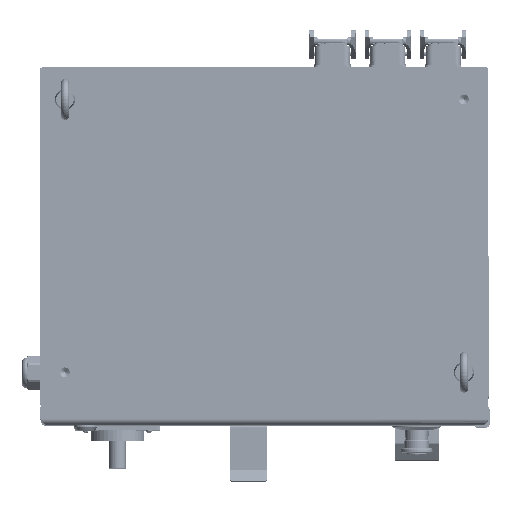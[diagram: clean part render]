
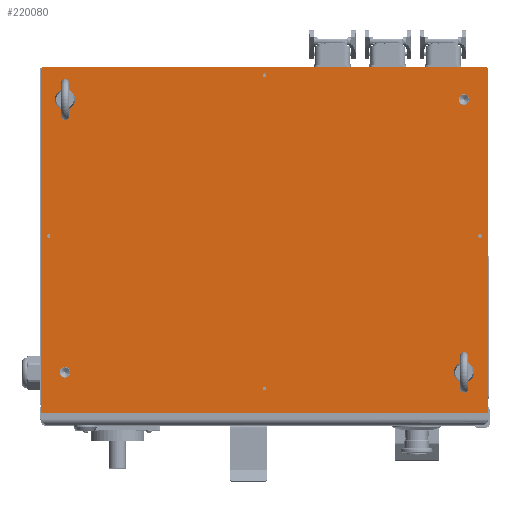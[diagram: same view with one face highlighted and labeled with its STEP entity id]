
A CAD part, top view. The second image highlights one B-rep face of the part: STEP entity #220080.
In plain terms, the highlighted planar face has unit normal (0, 0, 1).
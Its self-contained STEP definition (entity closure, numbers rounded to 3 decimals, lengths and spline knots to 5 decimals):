
#55085=CARTESIAN_POINT('',(0.265,0.,0.7984));
#55086=DIRECTION('',(0.,0.,-1.));
#55087=DIRECTION('',(-1.,0.,0.));
#55088=AXIS2_PLACEMENT_3D('',#55085,#55086,#55087);
#55090=CARTESIAN_POINT('',(0.265,0.,0.7984));
#55091=DIRECTION('',(0.,0.,-1.));
#55092=DIRECTION('',(1.,0.,0.));
#55093=AXIS2_PLACEMENT_3D('',#55090,#55091,#55092);
#55095=CARTESIAN_POINT('',(-0.265,0.,0.7984));
#55096=DIRECTION('',(0.,0.,-1.));
#55097=DIRECTION('',(-1.,0.,0.));
#55098=AXIS2_PLACEMENT_3D('',#55095,#55096,#55097);
#55100=CARTESIAN_POINT('',(-0.265,0.,0.7984));
#55101=DIRECTION('',(0.,0.,-1.));
#55102=DIRECTION('',(1.,0.,0.));
#55103=AXIS2_PLACEMENT_3D('',#55100,#55101,#55102);
#55105=CARTESIAN_POINT('',(0.,-0.1875,0.7984));
#55106=DIRECTION('',(0.,0.,-1.));
#55107=DIRECTION('',(-1.,0.,0.));
#55108=AXIS2_PLACEMENT_3D('',#55105,#55106,#55107);
#55110=CARTESIAN_POINT('',(0.,-0.1875,0.7984));
#55111=DIRECTION('',(0.,0.,-1.));
#55112=DIRECTION('',(1.,0.,0.));
#55113=AXIS2_PLACEMENT_3D('',#55110,#55111,#55112);
#55115=CARTESIAN_POINT('',(0.,0.1975,0.7984));
#55116=DIRECTION('',(0.,0.,-1.));
#55117=DIRECTION('',(-1.,0.,0.));
#55118=AXIS2_PLACEMENT_3D('',#55115,#55116,#55117);
#55120=CARTESIAN_POINT('',(0.,0.1975,0.7984));
#55121=DIRECTION('',(0.,0.,-1.));
#55122=DIRECTION('',(1.,0.,0.));
#55123=AXIS2_PLACEMENT_3D('',#55120,#55121,#55122);
#55125=CARTESIAN_POINT('',(-0.245,-0.1675,0.7984));
#55126=DIRECTION('',(0.,0.,-1.));
#55127=DIRECTION('',(-1.,0.,0.));
#55128=AXIS2_PLACEMENT_3D('',#55125,#55126,#55127);
#55130=CARTESIAN_POINT('',(-0.245,-0.1675,0.7984));
#55131=DIRECTION('',(0.,0.,-1.));
#55132=DIRECTION('',(1.,0.,0.));
#55133=AXIS2_PLACEMENT_3D('',#55130,#55131,#55132);
#55135=CARTESIAN_POINT('',(0.245,0.1675,0.7984));
#55136=DIRECTION('',(0.,0.,-1.));
#55137=DIRECTION('',(-1.,0.,0.));
#55138=AXIS2_PLACEMENT_3D('',#55135,#55136,#55137);
#55140=CARTESIAN_POINT('',(0.245,0.1675,0.7984));
#55141=DIRECTION('',(0.,0.,-1.));
#55142=DIRECTION('',(1.,0.,0.));
#55143=AXIS2_PLACEMENT_3D('',#55140,#55141,#55142);
#55145=CARTESIAN_POINT('',(-0.2725,-0.216,0.7984));
#55146=DIRECTION('',(0.,0.,1.));
#55147=DIRECTION('',(-1.,0.,0.));
#55148=AXIS2_PLACEMENT_3D('',#55145,#55146,#55147);
#55150=CARTESIAN_POINT('',(-0.2725,0.205,0.7984));
#55151=DIRECTION('',(0.,0.,1.));
#55152=DIRECTION('',(0.,1.,0.));
#55153=AXIS2_PLACEMENT_3D('',#55150,#55151,#55152);
#55155=CARTESIAN_POINT('',(0.2725,0.205,0.7984));
#55156=DIRECTION('',(0.,0.,1.));
#55157=DIRECTION('',(1.,0.,0.));
#55158=AXIS2_PLACEMENT_3D('',#55155,#55156,#55157);
#55160=CARTESIAN_POINT('',(0.2725,-0.216,0.7984));
#55161=DIRECTION('',(0.,0.,1.));
#55162=DIRECTION('',(0.,-1.,0.));
#55163=AXIS2_PLACEMENT_3D('',#55160,#55161,#55162);
#55165=CARTESIAN_POINT('',(0.245,-0.1675,0.7984));
#55166=DIRECTION('',(0.,0.,-1.));
#55167=DIRECTION('',(0.,1.,0.));
#55168=AXIS2_PLACEMENT_3D('',#55165,#55166,#55167);
#55170=CARTESIAN_POINT('',(0.245,-0.1675,0.7984));
#55171=DIRECTION('',(0.,0.,-1.));
#55172=DIRECTION('',(0.,-1.,0.));
#55173=AXIS2_PLACEMENT_3D('',#55170,#55171,#55172);
#55175=CARTESIAN_POINT('',(-0.245,0.1675,0.7984));
#55176=DIRECTION('',(0.,0.,-1.));
#55177=DIRECTION('',(0.,1.,0.));
#55178=AXIS2_PLACEMENT_3D('',#55175,#55176,#55177);
#55180=CARTESIAN_POINT('',(-0.245,0.1675,0.7984));
#55181=DIRECTION('',(0.,0.,-1.));
#55182=DIRECTION('',(0.,-1.,0.));
#55183=AXIS2_PLACEMENT_3D('',#55180,#55181,#55182);
#55225=DIRECTION('',(-1.,0.,0.));
#55226=VECTOR('',#55225,0.545);
#55227=CARTESIAN_POINT('',(0.2725,-0.218,0.7984));
#55228=LINE('',#55227,#55226);
#55237=DIRECTION('',(0.,1.,0.));
#55238=VECTOR('',#55237,0.421);
#55239=CARTESIAN_POINT('',(-0.2745,-0.216,0.7984));
#55240=LINE('',#55239,#55238);
#55262=DIRECTION('',(1.,0.,0.));
#55263=VECTOR('',#55262,0.545);
#55264=CARTESIAN_POINT('',(-0.2725,0.207,0.7984));
#55265=LINE('',#55264,#55263);
#55287=DIRECTION('',(0.,-1.,0.));
#55288=VECTOR('',#55287,0.421);
#55289=CARTESIAN_POINT('',(0.2745,0.205,0.7984));
#55290=LINE('',#55289,#55288);
#128922=CARTESIAN_POINT('',(-0.2745,-0.216,0.7984));
#128923=CARTESIAN_POINT('',(-0.2725,-0.218,0.7984));
#128924=VERTEX_POINT('',#128922);
#128925=VERTEX_POINT('',#128923);
#128926=CARTESIAN_POINT('',(-0.2745,0.205,0.7984));
#128927=VERTEX_POINT('',#128926);
#128928=CARTESIAN_POINT('',(-0.2725,0.207,0.7984));
#128929=VERTEX_POINT('',#128928);
#128930=CARTESIAN_POINT('',(0.2725,0.207,0.7984));
#128931=VERTEX_POINT('',#128930);
#128932=CARTESIAN_POINT('',(0.2745,0.205,0.7984));
#128933=VERTEX_POINT('',#128932);
#128934=CARTESIAN_POINT('',(0.2745,-0.216,0.7984));
#128935=VERTEX_POINT('',#128934);
#128936=CARTESIAN_POINT('',(0.2725,-0.218,0.7984));
#128937=VERTEX_POINT('',#128936);
#128938=CARTESIAN_POINT('',(0.2515,0.1675,0.7984));
#128939=CARTESIAN_POINT('',(0.2385,0.1675,0.7984));
#128940=VERTEX_POINT('',#128938);
#128941=VERTEX_POINT('',#128939);
#128942=CARTESIAN_POINT('',(-0.2385,-0.1675,0.7984));
#128943=CARTESIAN_POINT('',(-0.2515,-0.1675,0.7984));
#128944=VERTEX_POINT('',#128942);
#128945=VERTEX_POINT('',#128943);
#128946=CARTESIAN_POINT('',(0.00225,0.1975,0.7984));
#128947=CARTESIAN_POINT('',(-0.00225,0.1975,0.7984));
#128948=VERTEX_POINT('',#128946);
#128949=VERTEX_POINT('',#128947);
#128950=CARTESIAN_POINT('',(0.00225,-0.1875,0.7984));
#128951=CARTESIAN_POINT('',(-0.00225,-0.1875,0.7984));
#128952=VERTEX_POINT('',#128950);
#128953=VERTEX_POINT('',#128951);
#128954=CARTESIAN_POINT('',(-0.26275,0.,0.7984));
#128955=CARTESIAN_POINT('',(-0.26725,0.,0.7984));
#128956=VERTEX_POINT('',#128954);
#128957=VERTEX_POINT('',#128955);
#128958=CARTESIAN_POINT('',(0.26725,0.,0.7984));
#128959=CARTESIAN_POINT('',(0.26275,0.,0.7984));
#128960=VERTEX_POINT('',#128958);
#128961=VERTEX_POINT('',#128959);
#146827=CARTESIAN_POINT('',(0.245,-0.155,0.7984));
#146828=CARTESIAN_POINT('',(0.245,-0.18,0.7984));
#146829=VERTEX_POINT('',#146827);
#146830=VERTEX_POINT('',#146828);
#146831=CARTESIAN_POINT('',(-0.245,0.18,0.7984));
#146832=CARTESIAN_POINT('',(-0.245,0.155,0.7984));
#146833=VERTEX_POINT('',#146831);
#146834=VERTEX_POINT('',#146832);
#220011=CARTESIAN_POINT('',(0.,-0.005,0.7984));
#220012=DIRECTION('',(0.,0.,1.));
#220013=DIRECTION('',(1.,0.,0.));
#220014=AXIS2_PLACEMENT_3D('',#220011,#220012,#220013);
#220015=PLANE('',#220014);
#220017=ORIENTED_EDGE('',*,*,#220016,.T.);
#220019=ORIENTED_EDGE('',*,*,#220018,.F.);
#220021=ORIENTED_EDGE('',*,*,#220020,.T.);
#220023=ORIENTED_EDGE('',*,*,#220022,.F.);
#220025=ORIENTED_EDGE('',*,*,#220024,.T.);
#220027=ORIENTED_EDGE('',*,*,#220026,.F.);
#220029=ORIENTED_EDGE('',*,*,#220028,.T.);
#220031=ORIENTED_EDGE('',*,*,#220030,.F.);
#220032=EDGE_LOOP('',(#220017,#220019,#220021,#220023,#220025,#220027,#220029,
#220031));
#220033=FACE_OUTER_BOUND('',#220032,.F.);
#220035=ORIENTED_EDGE('',*,*,#220034,.F.);
#220037=ORIENTED_EDGE('',*,*,#220036,.F.);
#220038=EDGE_LOOP('',(#220035,#220037));
#220039=FACE_BOUND('',#220038,.F.);
#220041=ORIENTED_EDGE('',*,*,#220040,.F.);
#220043=ORIENTED_EDGE('',*,*,#220042,.F.);
#220044=EDGE_LOOP('',(#220041,#220043));
#220045=FACE_BOUND('',#220044,.F.);
#220047=ORIENTED_EDGE('',*,*,#220046,.F.);
#220049=ORIENTED_EDGE('',*,*,#220048,.F.);
#220050=EDGE_LOOP('',(#220047,#220049));
#220051=FACE_BOUND('',#220050,.F.);
#220053=ORIENTED_EDGE('',*,*,#220052,.F.);
#220055=ORIENTED_EDGE('',*,*,#220054,.F.);
#220056=EDGE_LOOP('',(#220053,#220055));
#220057=FACE_BOUND('',#220056,.F.);
#220058=ORIENTED_EDGE('',*,*,#220005,.F.);
#220059=ORIENTED_EDGE('',*,*,#219991,.F.);
#220060=EDGE_LOOP('',(#220058,#220059));
#220061=FACE_BOUND('',#220060,.F.);
#220063=ORIENTED_EDGE('',*,*,#220062,.F.);
#220065=ORIENTED_EDGE('',*,*,#220064,.F.);
#220066=EDGE_LOOP('',(#220063,#220065));
#220067=FACE_BOUND('',#220066,.F.);
#220069=ORIENTED_EDGE('',*,*,#220068,.F.);
#220071=ORIENTED_EDGE('',*,*,#220070,.F.);
#220072=EDGE_LOOP('',(#220069,#220071));
#220073=FACE_BOUND('',#220072,.F.);
#220075=ORIENTED_EDGE('',*,*,#220074,.F.);
#220077=ORIENTED_EDGE('',*,*,#220076,.F.);
#220078=EDGE_LOOP('',(#220075,#220077));
#220079=FACE_BOUND('',#220078,.F.);
#220080=ADVANCED_FACE('',(#220033,#220039,#220045,#220051,#220057,#220061,
#220067,#220073,#220079),#220015,.T.);
#55089=CIRCLE('',#55088,0.00225);
#55094=CIRCLE('',#55093,0.00225);
#55099=CIRCLE('',#55098,0.00225);
#55104=CIRCLE('',#55103,0.00225);
#55109=CIRCLE('',#55108,0.00225);
#55114=CIRCLE('',#55113,0.00225);
#55119=CIRCLE('',#55118,0.00225);
#55124=CIRCLE('',#55123,0.00225);
#55129=CIRCLE('',#55128,0.0065);
#55134=CIRCLE('',#55133,0.0065);
#55139=CIRCLE('',#55138,0.0065);
#55144=CIRCLE('',#55143,0.0065);
#55149=CIRCLE('',#55148,0.002);
#55154=CIRCLE('',#55153,0.002);
#55159=CIRCLE('',#55158,0.002);
#55164=CIRCLE('',#55163,0.002);
#55169=CIRCLE('',#55168,0.0125);
#55174=CIRCLE('',#55173,0.0125);
#55179=CIRCLE('',#55178,0.0125);
#55184=CIRCLE('',#55183,0.0125);
#219991=EDGE_CURVE('',#128940,#128941,#55144,.T.);
#220005=EDGE_CURVE('',#128941,#128940,#55139,.T.);
#220016=EDGE_CURVE('',#128937,#128925,#55228,.T.);
#220018=EDGE_CURVE('',#128924,#128925,#55149,.T.);
#220020=EDGE_CURVE('',#128924,#128927,#55240,.T.);
#220022=EDGE_CURVE('',#128929,#128927,#55154,.T.);
#220024=EDGE_CURVE('',#128929,#128931,#55265,.T.);
#220026=EDGE_CURVE('',#128933,#128931,#55159,.T.);
#220028=EDGE_CURVE('',#128933,#128935,#55290,.T.);
#220030=EDGE_CURVE('',#128937,#128935,#55164,.T.);
#220034=EDGE_CURVE('',#128957,#128956,#55099,.T.);
#220036=EDGE_CURVE('',#128956,#128957,#55104,.T.);
#220040=EDGE_CURVE('',#128953,#128952,#55109,.T.);
#220042=EDGE_CURVE('',#128952,#128953,#55114,.T.);
#220046=EDGE_CURVE('',#128949,#128948,#55119,.T.);
#220048=EDGE_CURVE('',#128948,#128949,#55124,.T.);
#220052=EDGE_CURVE('',#128945,#128944,#55129,.T.);
#220054=EDGE_CURVE('',#128944,#128945,#55134,.T.);
#220062=EDGE_CURVE('',#128961,#128960,#55089,.T.);
#220064=EDGE_CURVE('',#128960,#128961,#55094,.T.);
#220068=EDGE_CURVE('',#146829,#146830,#55169,.T.);
#220070=EDGE_CURVE('',#146830,#146829,#55174,.T.);
#220074=EDGE_CURVE('',#146833,#146834,#55179,.T.);
#220076=EDGE_CURVE('',#146834,#146833,#55184,.T.);
